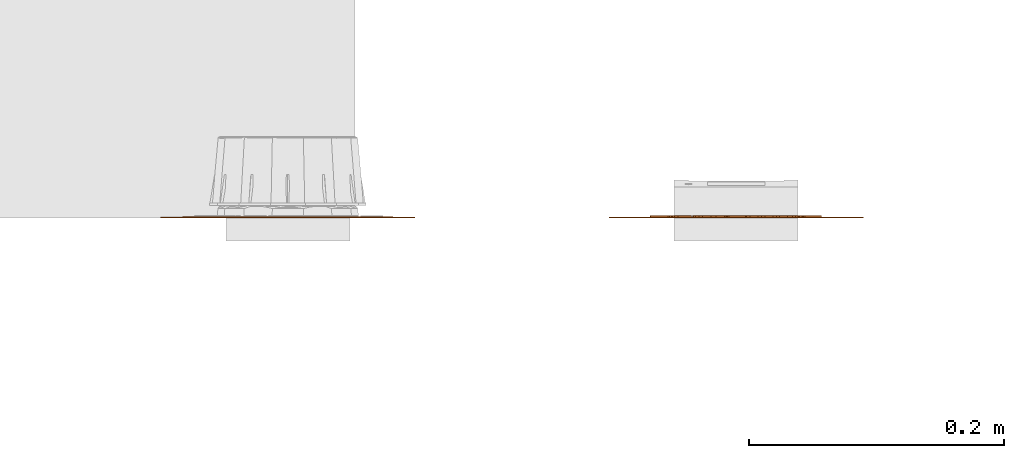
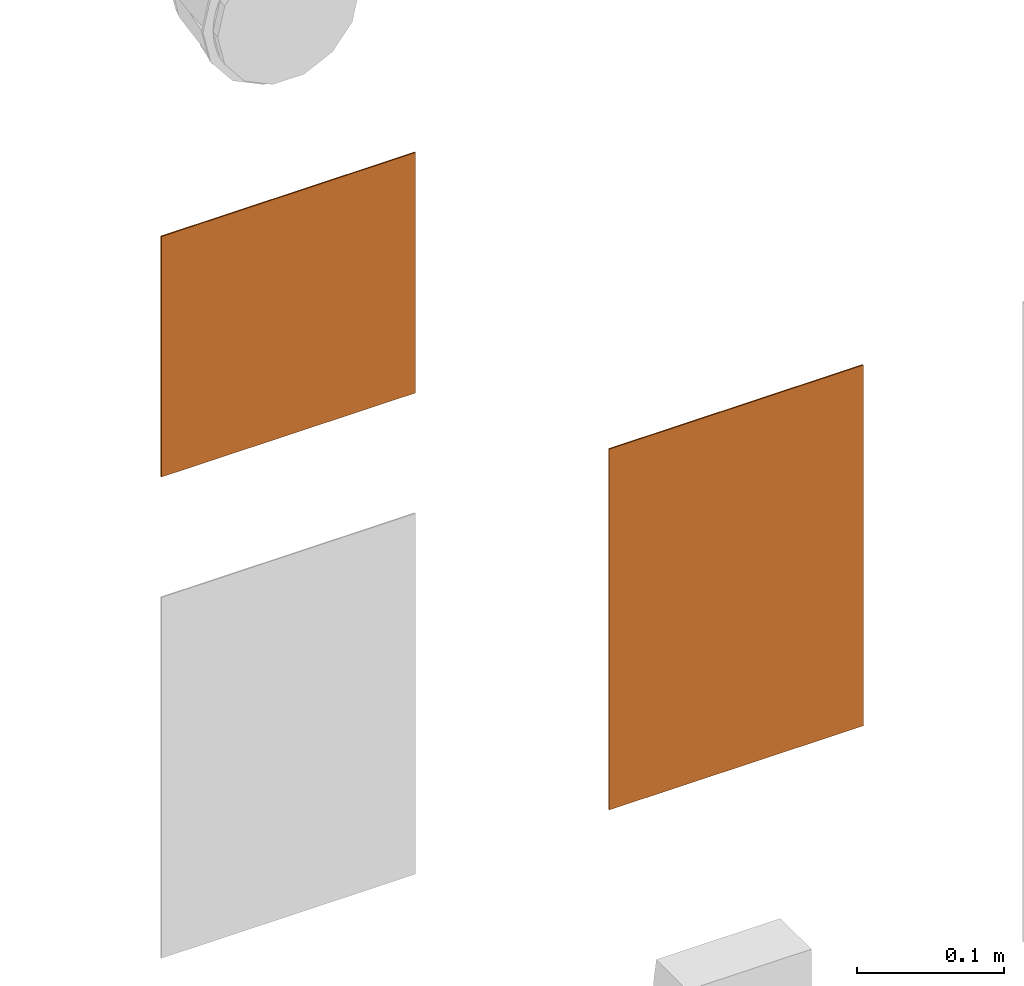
# One storey, part 43 of 119: 2 proxies.
"""IFC2X3 building model written with IfcOpenShell, lengths in metres."""

from ifc_helpers import new_model, entity, si_unit, converted_unit, derived_unit, direction, frame, frame_2d, origin, origin_2d_with_axis, place, context, subcontext, project, spatial, polyline, circle_curve, parameter, trimmed, segment, composite_curve, rectangle, circle, outline, extrude, source, transform, mapped, material, material_list, type_object, type_shapes, element, save


model = new_model("IFC2X3")

# Units and contexts
model_context = context("Model", 3, precision=1e-05, world=origin(), true_north=direction((6.12303176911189e-17, 1.0)))
body_context = subcontext(model_context, "Body", "Model", "MODEL_VIEW")
ifc_project = project(units=[si_unit("LENGTHUNIT", "METRE"), si_unit("AREAUNIT", "SQUARE_METRE"), si_unit("VOLUMEUNIT", "CUBIC_METRE"), converted_unit("PLANEANGLEUNIT", "DEGREE", entity("IfcRatioMeasure", 0.0174532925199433), si_unit("PLANEANGLEUNIT", "RADIAN"), dimensions=[0, 0, 0, 0, 0, 0, 0]), si_unit("MASSUNIT", "GRAM", prefix="KILO"), derived_unit("MASSDENSITYUNIT", [(si_unit("MASSUNIT", "GRAM", prefix="KILO"), 1), (si_unit("LENGTHUNIT", "METRE"), -3)]), derived_unit("MOMENTOFINERTIAUNIT", [(si_unit("LENGTHUNIT", "METRE"), 4)]), si_unit("TIMEUNIT", "SECOND"), si_unit("FREQUENCYUNIT", "HERTZ"), si_unit("THERMODYNAMICTEMPERATUREUNIT", "DEGREE_CELSIUS"), derived_unit("THERMALTRANSMITTANCEUNIT", [(si_unit("MASSUNIT", "GRAM", prefix="KILO"), 1), (si_unit("THERMODYNAMICTEMPERATUREUNIT", "KELVIN"), -1), (si_unit("TIMEUNIT", "SECOND"), -3)]), derived_unit("VOLUMETRICFLOWRATEUNIT", [(si_unit("LENGTHUNIT", "METRE"), 3), (si_unit("TIMEUNIT", "SECOND"), -1)]), si_unit("ELECTRICCURRENTUNIT", "AMPERE"), si_unit("ELECTRICVOLTAGEUNIT", "VOLT"), si_unit("POWERUNIT", "WATT"), si_unit("FORCEUNIT", "NEWTON", prefix="KILO"), si_unit("ILLUMINANCEUNIT", "LUX"), si_unit("LUMINOUSFLUXUNIT", "LUMEN"), si_unit("LUMINOUSINTENSITYUNIT", "CANDELA"), derived_unit("USERDEFINED", [(si_unit("MASSUNIT", "GRAM", prefix="KILO"), -1), (si_unit("LENGTHUNIT", "METRE"), -2), (si_unit("TIMEUNIT", "SECOND"), 3), (si_unit("LUMINOUSFLUXUNIT", "LUMEN"), 1)]), derived_unit("LINEARVELOCITYUNIT", [(si_unit("LENGTHUNIT", "METRE"), 1), (si_unit("TIMEUNIT", "SECOND"), -1)]), si_unit("PRESSUREUNIT", "PASCAL"), derived_unit("USERDEFINED", [(si_unit("LENGTHUNIT", "METRE"), -2), (si_unit("MASSUNIT", "GRAM", prefix="KILO"), 1), (si_unit("TIMEUNIT", "SECOND"), -2)]), derived_unit("LINEARFORCEUNIT", [(si_unit("MASSUNIT", "GRAM", prefix="KILO"), 1), (si_unit("LENGTHUNIT", "METRE"), 1), (si_unit("TIMEUNIT", "SECOND"), -2), (si_unit("LENGTHUNIT", "METRE"), -1)]), derived_unit("PLANARFORCEUNIT", [(si_unit("MASSUNIT", "GRAM", prefix="KILO"), 1), (si_unit("LENGTHUNIT", "METRE"), 1), (si_unit("TIMEUNIT", "SECOND"), -2), (si_unit("LENGTHUNIT", "METRE"), -2)])], contexts=[model_context])

# Site, building, storey
site_placement = place(None, origin())
site = spatial("IfcSite", under=ifc_project, at=site_placement, Name="Default", CompositionType="ELEMENT")
building_placement = place(site_placement, origin())
building = spatial("IfcBuilding", under=site, at=building_placement, CompositionType="ELEMENT")
storey_placement = place(building_placement, origin())
storey = spatial("IfcBuildingStorey", under=building, at=storey_placement, Name="PAV. 01 - TÉRREO", CompositionType="ELEMENT", Elevation=0.0)

# Proxies
ifc_material_1 = material(Name="Plastico branco")
ifc_material_2 = material(Name="Plastico vermelho")
ifc_material_list_1 = material_list([ifc_material_1, ifc_material_2])
building_element_proxy_type_1 = type_object("IfcBuildingElementProxyType", Name="Sinalização de equipamentos - E03 - Comando manual de alarme ou bomba de incêndio:Distância 08m", PredefinedType="NOTDEFINED", material=ifc_material_1)
shared_shape_1 = source(origin(), body_context, "Body", "SweptSolid", [
    extrude(outline(polyline([(-0.0108486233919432, -0.00904349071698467), (-0.00328343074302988, -0.00904349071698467), (6.49098100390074e-05, -0.00886064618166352), (0.00203963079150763, -0.008094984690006), (0.0034909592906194, -0.0065453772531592), (0.00407149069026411, -0.00437638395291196), (0.00337896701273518, -0.00199026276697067), (0.00149795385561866, -0.00035837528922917), (0.00383836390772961, 0.00130550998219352), (0.00465659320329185, 0.00407103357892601), (0.00406920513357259, 0.0065051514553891), (0.00246474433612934, 0.00839302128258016), (-4.25113544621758e-05, 0.00926381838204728), (-0.00454962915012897, 0.00938723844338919), (-0.0108486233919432, 0.00938723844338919), (-0.0108486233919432, -0.00904349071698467)]), holes=[polyline([(-0.00733800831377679, -0.00582542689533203), (-0.00733800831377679, -0.00172970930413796), (-0.00465933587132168, -0.00172970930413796), (-0.00168811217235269, -0.00178913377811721), (-4.02257977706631e-05, -0.00242451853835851), (-0.00149612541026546, -0.00576600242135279), (-0.00498845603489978, -0.00582542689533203), (-0.00733800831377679, -0.00582542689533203)]), polyline([(-0.00733800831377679, 0.00148835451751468), (-0.00733800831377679, 0.00616917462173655), (-0.00362626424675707, 0.00616917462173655), (-0.000874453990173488, 0.0060594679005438), (0.000583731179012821, 0.00536237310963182), (0.00114597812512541, 0.00387447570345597), (-0.00409708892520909, 0.00148835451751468), (-0.00733800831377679, 0.00148835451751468)])]), frame((-0.0562918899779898, -0.0022123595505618, 1.53648594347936), z_axis=(0.0, 1.0, 0.0), x_axis=(1.0, 0.0, 0.0)), (0.0, 0.0, 1.0), 0.0022123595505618),
    extrude(outline(polyline([(-0.00274131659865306, -0.00723537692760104), (0.00204807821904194, -0.00723537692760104), (0.00482213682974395, -0.00601174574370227), (0.00685816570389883, -0.00399502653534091), (0.00824841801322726, -0.000275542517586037), (0.00687087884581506, 0.00646330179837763), (0.00038103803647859, 0.0100380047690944), (-0.00689652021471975, 0.00889649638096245), (-0.0104736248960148, 0.00305448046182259), (-0.00911725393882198, -0.00369921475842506), (-0.00274131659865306, -0.00723537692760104)]), holes=[polyline([(-0.00200878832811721, -0.00379965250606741), (-0.00638392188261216, -0.00151705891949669), (-0.0073047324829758, 0.00249405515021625), (-0.00508828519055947, 0.00593636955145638), (-0.000139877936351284, 0.00656516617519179), (0.00422261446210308, 0.00434280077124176), (0.00508584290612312, 0.000320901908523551), (0.00288428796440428, -0.00318203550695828), (-0.00200878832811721, -0.00379965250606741)])]), frame((-0.0416947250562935, -0.0022123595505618, 1.53764997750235), z_axis=(0.0, 1.0, 0.0), x_axis=(0.172750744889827, 0.0, 0.984965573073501)), (0.0, 0.0, 1.0), 0.0022123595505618),
    extrude(outline(polyline([(-0.00835388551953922, -0.00892316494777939), (0.0100768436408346, -0.00892316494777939), (0.0100768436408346, -0.00290757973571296), (-0.00249371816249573, -3.51624106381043e-07), (0.0100768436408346, 0.0029068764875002), (0.0100768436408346, 0.00892246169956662), (-0.00835388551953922, 0.00892246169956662), (-0.00835388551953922, 0.0054118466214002), (0.00615482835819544, 0.00526557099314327), (-0.00835388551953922, 0.00205664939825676), (-0.00835388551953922, -0.00205278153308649), (0.00615482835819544, -0.00526627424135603), (-0.00835388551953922, -0.00541254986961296), (-0.00835388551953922, -0.00892316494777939)])), frame((-0.0198931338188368, -0.0022123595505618, 1.53545259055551), z_axis=(0.0, 1.0, 0.0), x_axis=(0.0, 0.0, 1.0)), (0.0, 0.0, 1.0), 0.0022123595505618),
    extrude(outline(polyline([(-0.0108486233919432, -0.00904349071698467), (-0.00328343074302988, -0.00904349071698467), (6.49098100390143e-05, -0.00886064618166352), (0.00203963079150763, -0.008094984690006), (0.00349095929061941, -0.0065453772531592), (0.00407149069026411, -0.00437638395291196), (0.00337896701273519, -0.00199026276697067), (0.00149795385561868, -0.00035837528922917), (0.00383836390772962, 0.00130550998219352), (0.00465659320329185, 0.00407103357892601), (0.00406920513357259, 0.0065051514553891), (0.00246474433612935, 0.00839302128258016), (-4.25113544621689e-05, 0.00926381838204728), (-0.00454962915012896, 0.00938723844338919), (-0.0108486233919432, 0.00938723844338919), (-0.0108486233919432, -0.00904349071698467)]), holes=[polyline([(-0.00733800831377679, -0.00582542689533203), (-0.00733800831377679, -0.00172970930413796), (-0.00465933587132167, -0.00172970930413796), (-0.00168811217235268, -0.00178913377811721), (-4.02257977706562e-05, -0.00242451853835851), (-0.00149612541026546, -0.00576600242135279), (-0.00498845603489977, -0.00582542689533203), (-0.00733800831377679, -0.00582542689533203)]), polyline([(-0.00733800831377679, 0.00148835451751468), (-0.00733800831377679, 0.00616917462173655), (-0.00362626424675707, 0.00616917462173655), (-0.00087445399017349, 0.0060594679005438), (0.000583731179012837, 0.00536237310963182), (0.00114597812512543, 0.00387447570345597), (-0.00409708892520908, 0.00148835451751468), (-0.00733800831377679, 0.00148835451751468)])]), frame((0.00338856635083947, -0.0022123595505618, 1.53648594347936), z_axis=(0.0, 1.0, 0.0), x_axis=(1.0, 0.0, 0.0)), (0.0, 0.0, 1.0), 0.0022123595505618),
    extrude(outline(polyline([(-0.00862797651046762, -0.00563161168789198), (-0.00493908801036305, -0.00563161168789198), (-0.00349461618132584, -0.00153589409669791), (0.00346718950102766, -0.00153589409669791), (0.00489337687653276, -0.00563161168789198), (0.00863254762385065, -0.00563161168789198), (0.00190386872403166, 0.0127991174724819), (-0.00183530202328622, 0.0127991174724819), (-0.00862797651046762, -0.00563161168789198)]), holes=[polyline([(-0.00237012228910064, 0.00168216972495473), (2.28555669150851e-06, 0.00841084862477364), (0.00234269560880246, 0.00168216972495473), (-0.00237012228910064, 0.00168216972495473)])]), frame((0.0178479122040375, -0.0022123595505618, 1.53273031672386), z_axis=(0.0, 1.0, 0.0), x_axis=(-1.0, 0.0, 0.0)), (0.0, 0.0, 1.0), 0.0022123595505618),
    extrude(outline(polyline([(-0.00963237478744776, -0.00923822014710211), (-0.00280770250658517, -0.00923822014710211), (0.000712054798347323, -0.00888624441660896), (0.00350043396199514, -0.00718807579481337), (0.00526716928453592, -0.00420313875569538), (0.00587284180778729, 0.000155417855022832), (0.00530602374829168, 0.00407743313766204), (0.003322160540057, 0.00733206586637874), (0.000698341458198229, 0.00880396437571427), (-0.00260657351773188, 0.00919250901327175), (-0.00963237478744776, 0.00919250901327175), (-0.00963237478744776, -0.00923822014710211)]), holes=[polyline([(-0.00612175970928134, -0.00602015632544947), (-0.00612175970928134, 0.00597444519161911), (-0.00313225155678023, 0.00597444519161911), (-0.000709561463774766, 0.00580074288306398), (0.000906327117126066, 0.00504879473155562), (0.00195539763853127, 0.00330034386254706), (0.00236222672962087, -1.82844535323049e-05), (0.00195539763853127, -0.00324091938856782), (0.000819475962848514, -0.00499622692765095), (-0.00103411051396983, -0.00584645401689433), (-0.00432074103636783, -0.00602015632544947), (-0.00612175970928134, -0.00602015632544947)])]), frame((0.0448848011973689, -0.0022123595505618, 1.53629121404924), z_axis=(0.0, 1.0, 0.0), x_axis=(1.0, 0.0, 0.0)), (0.0, 0.0, 1.0), 0.0022123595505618),
    extrude(outline(polyline([(-0.00931288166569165, -0.00799640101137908), (0.00911784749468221, -0.00799640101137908), (0.00911784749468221, 0.00575350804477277), (0.00589978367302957, 0.00575350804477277), (0.00589978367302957, -0.00448578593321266), (0.0018040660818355, -0.00448578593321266), (0.0018040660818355, 0.00516840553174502), (-0.00141399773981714, 0.00516840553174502), (-0.00141399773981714, -0.00448578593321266), (-0.00609481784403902, -0.00448578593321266), (-0.00609481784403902, 0.00604605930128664), (-0.00931288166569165, 0.00604605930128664), (-0.00931288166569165, -0.00799640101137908)])), frame((0.061679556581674, -0.0022123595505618, 1.53641158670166), z_axis=(0.0, 1.0, 0.0), x_axis=(0.0, 0.0, 1.0)), (0.0, 0.0, 1.0), 0.0022123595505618),
    extrude(rectangle(XDim=0.0022123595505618, YDim=0.00351061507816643, at=frame_2d((0.0, -4.22838847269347e-18), x_axis=(1.0, 0.0))), frame((-0.0588028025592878, -0.0011061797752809, 1.49460223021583), z_axis=(0.0, 0.0, 1.0), x_axis=(0.0, 1.0, 0.0)), (0.0, 0.0, 1.0), 0.0184307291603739),
    extrude(outline(polyline([(-0.00919708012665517, -0.00744862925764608), (0.00923364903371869, -0.00744862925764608), (0.00923364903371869, -0.00376888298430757), (-0.00317235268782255, 0.00396086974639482), (0.00923364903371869, 0.00396086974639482), (0.00923364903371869, 0.00747148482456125), (-0.00919708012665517, 0.00747148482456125), (-0.00919708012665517, 0.00367746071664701), (0.00302607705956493, -0.00393801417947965), (-0.00919708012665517, -0.00393801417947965), (-0.00919708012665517, -0.00744862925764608)])), frame((-0.046088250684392, -0.0022123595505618, 1.50379931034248), z_axis=(0.0, 1.0, 0.0), x_axis=(0.0, 0.0, 1.0)), (0.0, 0.0, 1.0), 0.0022123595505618),
    extrude(outline(polyline([(0.00431987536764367, 0.00106265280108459), (0.0080203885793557, 0.00106265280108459), (0.00679097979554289, 0.00611977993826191), (0.0025895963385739, 0.00904043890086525), (-0.00392677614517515, 0.00861545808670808), (-0.00830378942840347, 0.00297217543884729), (-0.00825825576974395, -0.00444402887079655), (-0.00308837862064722, -0.00880297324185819), (0.00280208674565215, -0.00859337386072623), (0.0057075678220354, -0.00587580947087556), (0.00256213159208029, -0.004210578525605), (0.000503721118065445, -0.0057818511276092), (-0.00230057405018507, -0.00567343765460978), (-0.00522195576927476, -0.00319871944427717), (-0.00505861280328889, 0.00160616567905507), (-0.0022796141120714, 0.00575840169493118), (0.00144185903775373, 0.00603088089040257), (0.00369975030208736, 0.00431216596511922), (0.00431987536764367, 0.00106265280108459)])), frame((-0.0268737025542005, -0.0022123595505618, 1.50399764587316), z_axis=(0.0, 1.0, 0.0), x_axis=(0.948683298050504, 0.0, -0.316227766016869)), (0.0, 0.0, 1.0), 0.0022123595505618),
    extrude(outline(polyline([(-0.00931288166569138, -0.00799640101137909), (0.00911784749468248, -0.00799640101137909), (0.00911784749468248, 0.00575350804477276), (0.00589978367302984, 0.00575350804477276), (0.00589978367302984, -0.00448578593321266), (0.00180406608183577, -0.00448578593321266), (0.00180406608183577, 0.00516840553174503), (-0.00141399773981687, 0.00516840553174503), (-0.00141399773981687, -0.00448578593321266), (-0.00609481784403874, -0.00448578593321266), (-0.00609481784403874, 0.00604605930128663), (-0.00931288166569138, 0.00604605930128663), (-0.00931288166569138, -0.00799640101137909)])), frame((-0.00867902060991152, -0.0022123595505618, 1.50391511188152), z_axis=(0.0, 1.0, 0.0), x_axis=(0.0, 0.0, 1.0)), (0.0, 0.0, 1.0), 0.0022123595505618),
    extrude(outline(polyline([(-0.00919708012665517, -0.00744862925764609), (0.00923364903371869, -0.00744862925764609), (0.00923364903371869, -0.00376888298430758), (-0.00317235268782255, 0.00396086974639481), (0.00923364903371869, 0.00396086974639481), (0.00923364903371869, 0.00747148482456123), (-0.00919708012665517, 0.00747148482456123), (-0.00919708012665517, 0.003677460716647), (0.00302607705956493, -0.00393801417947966), (-0.00919708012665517, -0.00393801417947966), (-0.00919708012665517, -0.00744862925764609)])), frame((0.00774118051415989, -0.0022123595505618, 1.50379931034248), z_axis=(0.0, 1.0, 0.0), x_axis=(0.0, 0.0, 1.0)), (0.0, 0.0, 1.0), 0.0022123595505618),
    extrude(outline(polyline([(-0.00963237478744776, -0.00923822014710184), (-0.00280770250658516, -0.00923822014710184), (0.000712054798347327, -0.00888624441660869), (0.00350043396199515, -0.00718807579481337), (0.00526716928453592, -0.00420313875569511), (0.0058728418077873, 0.000155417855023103), (0.00530602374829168, 0.00407743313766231), (0.003322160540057, 0.00733206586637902), (0.000698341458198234, 0.00880396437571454), (-0.00260657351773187, 0.00919250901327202), (-0.00963237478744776, 0.00919250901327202), (-0.00963237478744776, -0.00923822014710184)]), holes=[polyline([(-0.00612175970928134, -0.0060201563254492), (-0.00612175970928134, 0.00597444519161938), (-0.00313225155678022, 0.00597444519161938), (-0.000709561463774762, 0.00580074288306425), (0.00090632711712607, 0.00504879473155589), (0.00195539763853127, 0.00330034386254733), (0.00236222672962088, -1.82844535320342e-05), (0.00195539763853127, -0.00324091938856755), (0.000819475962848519, -0.00499622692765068), (-0.00103411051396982, -0.00584645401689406), (-0.00432074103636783, -0.0060201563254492), (-0.00612175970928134, -0.0060201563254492)])]), frame((0.0283556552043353, -0.0022123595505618, 1.5037947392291), z_axis=(0.0, 1.0, 0.0), x_axis=(1.0, 0.0, 0.0)), (0.0, 0.0, 1.0), 0.0022123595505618),
    extrude(rectangle(XDim=0.0022123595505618, YDim=0.00351061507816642, at=origin_2d_with_axis()), frame((0.0389093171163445, -0.0011061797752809, 1.49460223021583), z_axis=(0.0, 0.0, 1.0), x_axis=(0.0, 1.0, 0.0)), (0.0, 0.0, 1.0), 0.0184307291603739),
    extrude(outline(polyline([(-0.0027413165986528, -0.0072353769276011), (0.0020480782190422, -0.0072353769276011), (0.00482213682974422, -0.00601174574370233), (0.00685816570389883, -0.00399502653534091), (0.00824841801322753, -0.000275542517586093), (0.00687087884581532, 0.00646330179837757), (0.000381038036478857, 0.0100380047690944), (-0.00689652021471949, 0.0088964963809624), (-0.0104736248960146, 0.00305448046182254), (-0.00911725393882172, -0.00369921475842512), (-0.0027413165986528, -0.0072353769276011)]), holes=[polyline([(-0.00200878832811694, -0.00379965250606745), (-0.00638392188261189, -0.00151705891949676), (-0.00730473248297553, 0.00249405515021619), (-0.00508828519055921, 0.00593636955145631), (-0.000139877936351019, 0.00656516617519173), (0.00422261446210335, 0.00434280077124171), (0.00508584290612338, 0.000320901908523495), (0.00288428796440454, -0.00318203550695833), (-0.00200878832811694, -0.00379965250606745)])]), frame((0.0511902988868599, -0.0022123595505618, 1.50515350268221), z_axis=(0.0, 1.0, 0.0), x_axis=(0.172750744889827, 0.0, 0.984965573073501)), (0.0, 0.0, 1.0), 0.0022123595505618),
    extrude(outline(polyline([(-0.00331762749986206, -0.00249092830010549), (0.000995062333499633, -0.00249092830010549), (0.00269430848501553, -0.00010950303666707), (0.00127033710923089, 0.00393891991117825), (-0.000258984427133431, 0.00179563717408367), (0.0004052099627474, -0.000295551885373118), (-0.00178830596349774, -0.00034764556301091), (-0.00331762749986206, -0.00249092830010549)])), frame((-0.00979524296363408, -0.0022123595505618, 1.51574950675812), z_axis=(0.0, 1.0, 0.0), x_axis=(0.580837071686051, 0.0, 0.814019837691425)), (0.0, 0.0, 1.0), 0.0022123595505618),
    extrude(circle(Radius=0.0367452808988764, at=frame_2d((-5.36303450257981e-23, -2.70716782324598e-16), x_axis=(1.0, 0.0))), frame((0.0, -0.0011, 1.64973853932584), z_axis=(0.0, 1.0, 0.0), x_axis=(1.0, 0.0, 0.0)), (0.0, 0.0, 1.0), 0.0011),
    extrude(outline(polyline([(-0.0713787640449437, -0.075200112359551), (0.0713787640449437, -0.075200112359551), (0.0752001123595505, -0.0713787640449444), (0.0752001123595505, 0.0713787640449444), (0.0713787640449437, 0.075200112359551), (-0.0713787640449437, 0.075200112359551), (-0.0752001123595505, 0.0713787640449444), (-0.0752001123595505, -0.0713787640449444), (-0.0713787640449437, -0.075200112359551)]), holes=[composite_curve([segment(trimmed(circle_curve(origin_2d_with_axis(), 0.0583057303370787), [parameter(180.0)], [parameter(360.0)], True, "PARAMETER"), False, "CONTINUOUS"), segment(trimmed(circle_curve(origin_2d_with_axis(), 0.0583057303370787), [parameter(0.0)], [parameter(180.0)], True, "PARAMETER"), False, "CONTINUOUS")], self_intersect=False)]), frame((0.0, -0.0011, 1.64973853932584), z_axis=(0.0, 1.0, 0.0), x_axis=(1.0, 0.0, 0.0)), (0.0, 0.0, 1.0), 0.0011),
    extrude(rectangle(XDim=0.001, YDim=0.179, at=origin_2d_with_axis()), frame((0.0, -0.0005, 1.4605), z_axis=(0.0, 0.0, 1.0), x_axis=(0.0, 1.0, 0.0)), (0.0, 0.0, 1.0), 0.279),
    extrude(outline(polyline([(-0.150000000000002, -0.1), (0.150000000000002, -0.1), (0.150000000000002, 0.1), (-0.150000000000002, 0.1), (-0.150000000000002, -0.1)]), holes=[polyline([(-0.139500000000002, -0.0895000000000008), (-0.139500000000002, 0.0894999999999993), (0.139499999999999, 0.0894999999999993), (0.139499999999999, -0.0895000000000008), (-0.139500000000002, -0.0895000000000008)])]), frame((0.0, -0.001, 1.6), z_axis=(0.0, 1.0, 0.0), x_axis=(0.0, 0.0, -1.0)), (0.0, 0.0, 1.0), 0.001),
])
type_shapes(building_element_proxy_type_1, [shared_shape_1])
proxy_1_placement = place(storey_placement, frame((26.8433454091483, -5.41661806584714, 0.0), z_axis=(0.0, 0.0, 1.0), x_axis=(-1.0, 0.0, 0.0)))
element("IfcBuildingElementProxy", 1, at=proxy_1_placement, inside=storey, type_object=building_element_proxy_type_1, material=ifc_material_list_1, Name="Sinalização de equipamentos - E03 - Comando manual de alarme ou bomba de incêndio:Distância 08m", ObjectType="Sinalização de equipamentos - E03 - Comando manual de alarme ou bomba de incêndio:Distância 08m", context=body_context, shape_type="MappedRepresentation", body=[
    mapped(shared_shape_1, transform((0.0, 0.0, 0.0), scale=1.0)),
])
ifc_material_list_2 = material_list([ifc_material_1, ifc_material_2])
building_element_proxy_type_2 = type_object("IfcBuildingElementProxyType", Name="Sinalização de equipamentos - E01 - Alarme sonoro:Distância 08m", PredefinedType="NOTDEFINED", material=ifc_material_1)
shared_shape_2 = source(origin(), body_context, "Body", "SweptSolid", [
    extrude(outline(polyline([(-0.0323377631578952, -0.00693625), (-0.0323377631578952, -0.072205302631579), (0.0327805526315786, -0.072205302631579), (0.0327805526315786, -0.00693625), (0.0119600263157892, -0.00693625), (0.0308021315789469, 0.0792286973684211), (-0.0310376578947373, 0.0929269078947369), (-0.0126100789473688, -0.00693625), (-0.0323377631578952, -0.00693625)]), holes=[polyline([(-0.0238399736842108, -0.0163761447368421), (0.0237363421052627, -0.0163761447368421), (0.0237363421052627, -0.0634060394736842), (-0.0238399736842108, -0.0634060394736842), (-0.0238399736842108, -0.0163761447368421)]), polyline([(0.00317960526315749, -0.00693625), (-0.00394002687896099, -0.00693625), (-0.0201846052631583, 0.0816593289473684), (0.020533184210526, 0.0725020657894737), (0.00317960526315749, -0.00693625)])]), frame((-0.0103042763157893, -0.0015, 1.95018371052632), z_axis=(0.0, -1.0, 0.0), x_axis=(0.0, 0.0, -1.0)), (0.0, 0.0, -1.0), 0.0015),
    extrude(rectangle(XDim=0.001, YDim=0.179, at=origin_2d_with_axis()), frame((0.0, -0.0005, 1.8605), z_axis=(0.0, 0.0, 1.0), x_axis=(0.0, 1.0, 0.0)), (0.0, 0.0, 1.0), 0.179),
    extrude(outline(polyline([(-0.100000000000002, -0.1), (0.100000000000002, -0.1), (0.100000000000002, 0.1), (-0.100000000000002, 0.1), (-0.100000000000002, -0.1)]), holes=[polyline([(-0.0895000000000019, -0.0895000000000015), (-0.0895000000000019, 0.0894999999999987), (0.0894999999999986, 0.0894999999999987), (0.0894999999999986, -0.0895000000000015), (-0.0895000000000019, -0.0895000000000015)])]), frame((0.0, -0.001, 1.95), z_axis=(0.0, 1.0, 0.0), x_axis=(0.0, 0.0, -1.0)), (0.0, 0.0, 1.0), 0.001),
])
type_shapes(building_element_proxy_type_2, [shared_shape_2])
proxy_2_placement = place(storey_placement, frame((26.4912251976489, -5.41661806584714, 0.0), z_axis=(0.0, 0.0, 1.0), x_axis=(-1.0, 0.0, 0.0)))
element("IfcBuildingElementProxy", 2, at=proxy_2_placement, inside=storey, type_object=building_element_proxy_type_2, material=ifc_material_list_2, Name="Sinalização de equipamentos - E01 - Alarme sonoro:Distância 08m", ObjectType="Sinalização de equipamentos - E01 - Alarme sonoro:Distância 08m", context=body_context, shape_type="MappedRepresentation", body=[
    mapped(shared_shape_2, transform((0.0, 0.0, 0.0), scale=1.0)),
])

save(model, "model.ifc")
